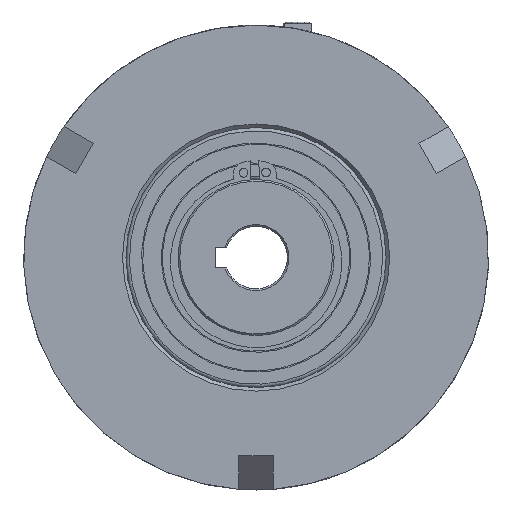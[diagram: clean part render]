
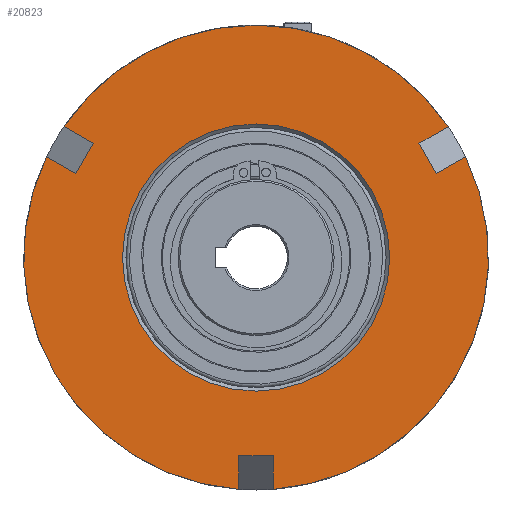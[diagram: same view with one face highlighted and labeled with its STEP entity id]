
A CAD part, front view. The second image highlights one B-rep face of the part: STEP entity #20823.
In plain terms, the highlighted planar face has unit normal (0, -1, 0).
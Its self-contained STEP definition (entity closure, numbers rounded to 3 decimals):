
#1155=LINE('',#29706,#3640);
#1157=LINE('',#29712,#3642);
#1159=LINE('',#29716,#3644);
#1162=LINE('',#29723,#3647);
#1164=LINE('',#29729,#3649);
#1166=LINE('',#29733,#3651);
#1167=LINE('',#29738,#3652);
#1168=LINE('',#29740,#3653);
#1169=LINE('',#29742,#3654);
#3640=VECTOR('',#23152,10.);
#3642=VECTOR('',#23156,10.);
#3644=VECTOR('',#23162,10.);
#3647=VECTOR('',#23167,10.);
#3649=VECTOR('',#23171,10.);
#3651=VECTOR('',#23177,10.);
#3652=VECTOR('',#23182,10.);
#3653=VECTOR('',#23183,10.);
#3654=VECTOR('',#23184,10.);
#6357=FACE_BOUND('',#6657,.T.);
#6420=FACE_OUTER_BOUND('',#6656,.T.);
#6656=EDGE_LOOP('',(#16069,#16070,#16071,#16072,#16073,#16074,#16075,#16076,
#16077,#16078,#16079,#16080));
#6657=EDGE_LOOP('',(#16081));
#6941=CIRCLE('',#21115,67.);
#6942=CIRCLE('',#21116,67.);
#6943=CIRCLE('',#21117,67.);
#6944=CIRCLE('',#21118,38.5);
#7649=VERTEX_POINT('',#29702);
#7650=VERTEX_POINT('',#29704);
#7651=VERTEX_POINT('',#29708);
#7653=VERTEX_POINT('',#29711);
#7655=VERTEX_POINT('',#29719);
#7656=VERTEX_POINT('',#29721);
#7657=VERTEX_POINT('',#29725);
#7659=VERTEX_POINT('',#29728);
#7660=VERTEX_POINT('',#29735);
#7661=VERTEX_POINT('',#29737);
#7662=VERTEX_POINT('',#29739);
#7663=VERTEX_POINT('',#29741);
#7664=VERTEX_POINT('',#29745);
#11756=EDGE_CURVE('',#7649,#7650,#1155,.T.);
#11758=EDGE_CURVE('',#7653,#7651,#1157,.T.);
#11761=EDGE_CURVE('',#7650,#7653,#1159,.T.);
#11764=EDGE_CURVE('',#7655,#7656,#1162,.T.);
#11766=EDGE_CURVE('',#7659,#7657,#1164,.T.);
#11769=EDGE_CURVE('',#7656,#7659,#1166,.T.);
#11770=EDGE_CURVE('',#7651,#7660,#6941,.T.);
#11771=EDGE_CURVE('',#7660,#7661,#1167,.T.);
#11772=EDGE_CURVE('',#7661,#7662,#1168,.T.);
#11773=EDGE_CURVE('',#7662,#7663,#1169,.T.);
#11774=EDGE_CURVE('',#7663,#7655,#6942,.T.);
#11775=EDGE_CURVE('',#7657,#7649,#6943,.T.);
#11776=EDGE_CURVE('',#7664,#7664,#6944,.T.);
#16069=ORIENTED_EDGE('',*,*,#11756,.T.);
#16070=ORIENTED_EDGE('',*,*,#11761,.T.);
#16071=ORIENTED_EDGE('',*,*,#11758,.T.);
#16072=ORIENTED_EDGE('',*,*,#11770,.T.);
#16073=ORIENTED_EDGE('',*,*,#11771,.T.);
#16074=ORIENTED_EDGE('',*,*,#11772,.T.);
#16075=ORIENTED_EDGE('',*,*,#11773,.T.);
#16076=ORIENTED_EDGE('',*,*,#11774,.T.);
#16077=ORIENTED_EDGE('',*,*,#11764,.T.);
#16078=ORIENTED_EDGE('',*,*,#11769,.T.);
#16079=ORIENTED_EDGE('',*,*,#11766,.T.);
#16080=ORIENTED_EDGE('',*,*,#11775,.T.);
#16081=ORIENTED_EDGE('',*,*,#11776,.F.);
#20626=PLANE('',#21114);
#20823=ADVANCED_FACE('',(#6420,#6357),#20626,.T.);
#21114=AXIS2_PLACEMENT_3D('',#29734,#23178,#23179);
#21115=AXIS2_PLACEMENT_3D('',#29736,#23180,#23181);
#21116=AXIS2_PLACEMENT_3D('',#29743,#23185,#23186);
#21117=AXIS2_PLACEMENT_3D('',#29744,#23187,#23188);
#21118=AXIS2_PLACEMENT_3D('',#29746,#23189,#23190);
#23152=DIRECTION('',(0.866,0.,-0.5));
#23156=DIRECTION('',(-0.866,0.,0.5));
#23162=DIRECTION('',(-0.5,0.,-0.866));
#23167=DIRECTION('',(-0.866,0.,-0.5));
#23171=DIRECTION('',(0.866,0.,0.5));
#23177=DIRECTION('',(-0.5,0.,0.866));
#23178=DIRECTION('center_axis',(0.,-1.,0.));
#23179=DIRECTION('ref_axis',(1.,0.,0.));
#23180=DIRECTION('center_axis',(0.,-1.,0.));
#23181=DIRECTION('ref_axis',(1.,0.,0.));
#23182=DIRECTION('',(0.,0.,1.));
#23183=DIRECTION('',(1.,0.,0.));
#23184=DIRECTION('',(0.,0.,-1.));
#23185=DIRECTION('center_axis',(0.,-1.,0.));
#23186=DIRECTION('ref_axis',(1.,0.,0.));
#23187=DIRECTION('center_axis',(0.,-1.,0.));
#23188=DIRECTION('ref_axis',(1.,0.,0.));
#23189=DIRECTION('center_axis',(0.,-1.,0.));
#23190=DIRECTION('ref_axis',(-1.,0.,0.));
#29702=CARTESIAN_POINT('',(-55.362,-103.534,37.737));
#29704=CARTESIAN_POINT('',(-46.95,-103.534,32.88));
#29706=CARTESIAN_POINT('',(-22.147,-103.534,18.56));
#29708=CARTESIAN_POINT('',(-60.362,-103.534,29.076));
#29711=CARTESIAN_POINT('',(-51.95,-103.534,24.22));
#29712=CARTESIAN_POINT('',(-34.405,-103.534,14.09));
#29716=CARTESIAN_POINT('',(-49.45,-103.534,28.55));
#29719=CARTESIAN_POINT('',(60.362,-103.534,29.076));
#29721=CARTESIAN_POINT('',(51.95,-103.534,24.22));
#29723=CARTESIAN_POINT('',(27.147,-103.534,9.9));
#29725=CARTESIAN_POINT('',(55.362,-103.534,37.737));
#29728=CARTESIAN_POINT('',(46.95,-103.534,32.88));
#29729=CARTESIAN_POINT('',(29.405,-103.534,22.751));
#29733=CARTESIAN_POINT('',(49.45,-103.534,28.55));
#29734=CARTESIAN_POINT('Origin',(0.,-103.534,
0.));
#29735=CARTESIAN_POINT('',(-5.,-103.534,-66.813));
#29736=CARTESIAN_POINT('Origin',(0.,-103.534,
0.));
#29737=CARTESIAN_POINT('',(-5.,-103.534,-57.101));
#29738=CARTESIAN_POINT('',(-5.,-103.534,-28.46));
#29739=CARTESIAN_POINT('',(5.,-103.534,-57.101));
#29740=CARTESIAN_POINT('',(0.,-103.534,-57.101));
#29741=CARTESIAN_POINT('',(5.,-103.534,-66.813));
#29742=CARTESIAN_POINT('',(5.,-103.534,-36.841));
#29743=CARTESIAN_POINT('Origin',(0.,-103.534,
0.));
#29744=CARTESIAN_POINT('Origin',(0.,-103.534,
0.));
#29745=CARTESIAN_POINT('',(38.5,-103.534,0.));
#29746=CARTESIAN_POINT('Origin',(0.,-103.534,
0.));
